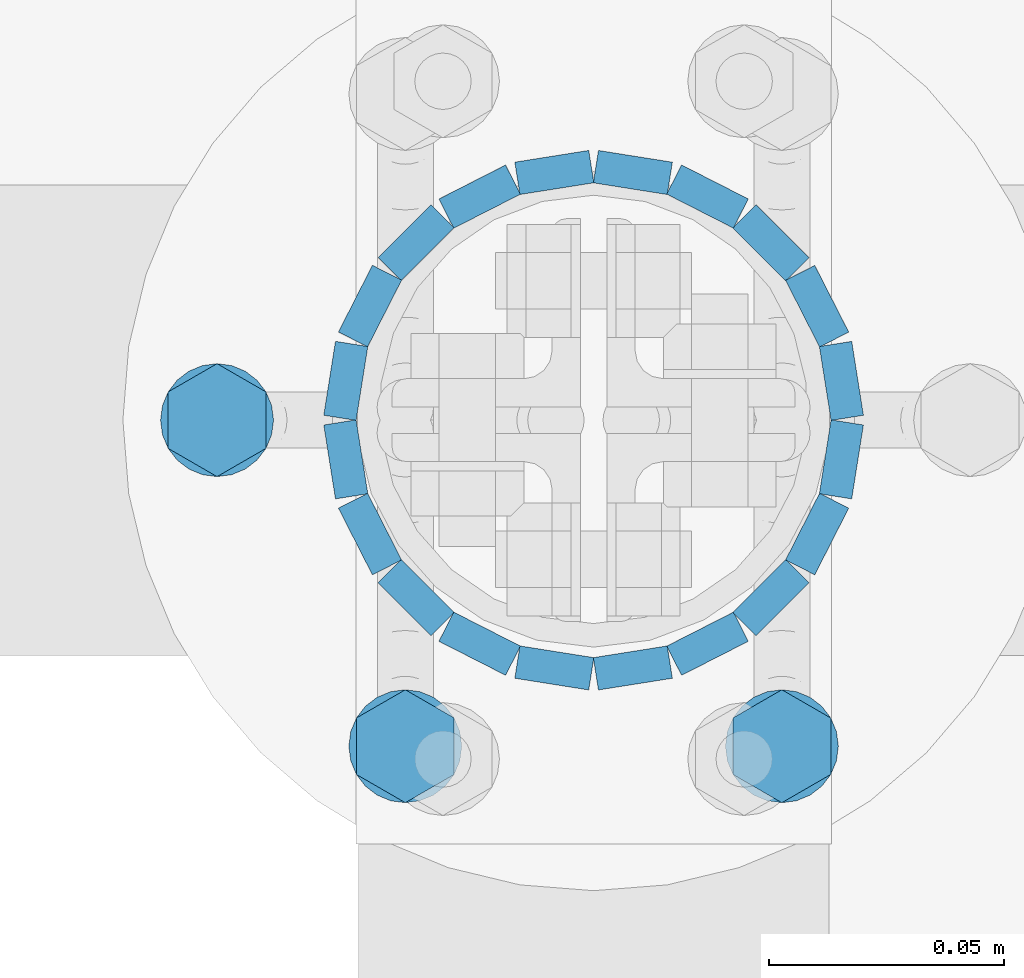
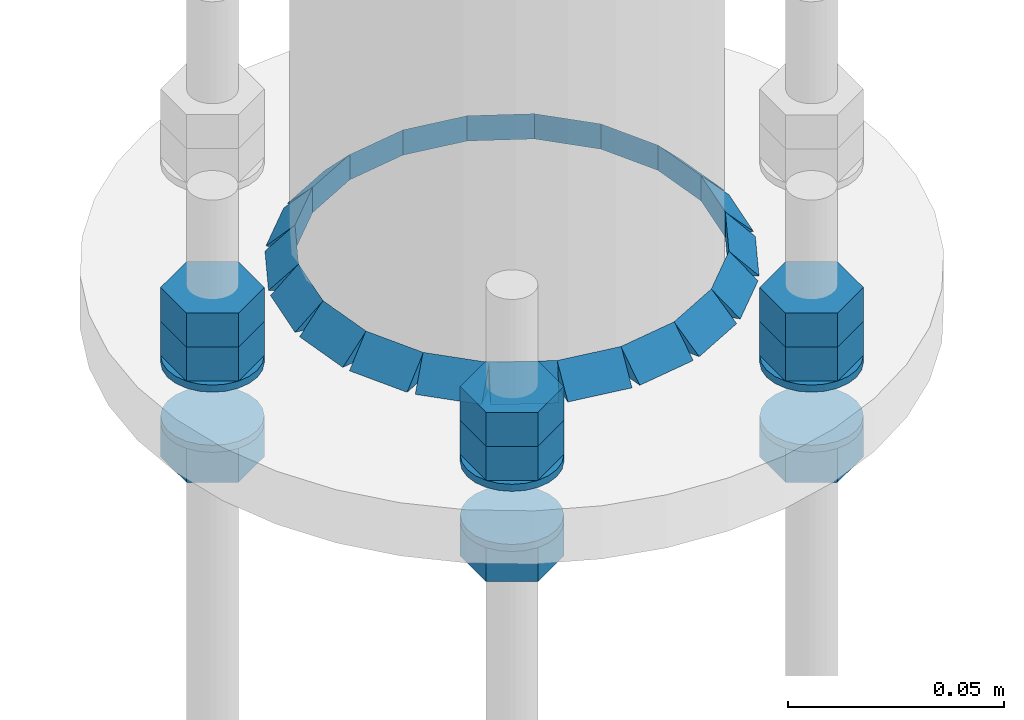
# One storey, part 58 of 84: 40 fasteners, 15 mechanical fasteners.
"""IFC4 building model written with IfcOpenShell, lengths in metres."""

from ifc_helpers import new_model, si_unit, frame, origin_with_axes, place, context, project, spatial, polyline, outline, extrude, type_object, element, save


model = new_model("IFC4")

# Units and contexts
model_context = context("Model", 3, precision=1e-05, world=origin_with_axes())
ifc_project = project(units=[si_unit("LENGTHUNIT", "METRE"), si_unit("AREAUNIT", "SQUARE_METRE"), si_unit("VOLUMEUNIT", "CUBIC_METRE"), si_unit("MASSUNIT", "GRAM", prefix="KILO"), si_unit("TIMEUNIT", "SECOND"), si_unit("PLANEANGLEUNIT", "RADIAN"), si_unit("SOLIDANGLEUNIT", "STERADIAN"), si_unit("THERMODYNAMICTEMPERATUREUNIT", "DEGREE_CELSIUS")], contexts=[model_context])

# Site, building, storey
placement_1 = place(None, origin_with_axes())
site = spatial("IfcSite", under=ifc_project, at=placement_1, Name="Italia", CompositionType="ELEMENT")
building = spatial("IfcBuilding", under=site, at=placement_1, Name="Tettoia", CompositionType="ELEMENT")
storey_placement = place(None, frame((0.0, 0.0, 4.199999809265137), z_axis=(0.0, 0.0, 1.0), x_axis=(1.0, 0.0, 0.0)))
storey = spatial("IfcBuildingStorey", under=building, at=storey_placement, Name="Storey 1", CompositionType="ELEMENT", Elevation=4.199999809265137)

# Fasteners
fastener_type_1 = type_object("IfcFastenerType", Name="Collegamento -009_0109", PredefinedType="WELD")
placement_2 = place(placement_1, origin_with_axes())
fastener_1_placement = place(placement_2, origin_with_axes())
element("IfcFastener", 1, at=fastener_1_placement, inside=storey, type_object=fastener_type_1, Name="Collegamento -009_0109", context=model_context, shape_type="SweptSolid", body=[
    extrude(outline(polyline([(0.0, 0.0), (0.00695705, 0.00717354), (0.00695705, 0.0), (0.0, 0.0)])), frame((8.30674, 10.0248, 4.01495), z_axis=(-0.987678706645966, 0.156495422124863, 0.0), x_axis=(-0.156495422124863, -0.987678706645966, 0.0)), (0.0, 0.0, 1.0), 0.0158991),
])
fastener_type_2 = type_object("IfcFastenerType", Name="Collegamento -009_0109", PredefinedType="WELD")
fastener_2_placement = place(placement_2, origin_with_axes())
element("IfcFastener", 2, at=fastener_2_placement, inside=storey, type_object=fastener_type_2, Name="Collegamento -009_0109", context=model_context, shape_type="SweptSolid", body=[
    extrude(outline(polyline([(0.0, 0.0), (0.00695992, 0.00717354), (0.00695992, 0.0), (0.0, 0.0)])), frame((8.32286, 10.017, 4.01495), z_axis=(-0.891030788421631, 0.453942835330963, 0.0), x_axis=(-0.453942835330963, -0.891030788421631, 0.0)), (0.0, 0.0, 1.0), 0.0158994),
])
fastener_type_3 = type_object("IfcFastenerType", Name="Collegamento -009_0109", PredefinedType="WELD")
fastener_3_placement = place(placement_2, origin_with_axes())
element("IfcFastener", 3, at=fastener_3_placement, inside=storey, type_object=fastener_type_3, Name="Collegamento -009_0109", context=model_context, shape_type="SweptSolid", body=[
    extrude(outline(polyline([(0.0, 0.0), (0.00695801, 0.00717354), (0.00695801, 0.0), (0.0, 0.0)])), frame((8.33578, 10.0045, 4.01495), z_axis=(-0.70710676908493, 0.70710676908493, 0.0), x_axis=(-0.70710676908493, -0.70710676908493, 0.0)), (0.0, 0.0, 1.0), 0.0158998),
])
fastener_type_4 = type_object("IfcFastenerType", Name="Collegamento -009_0109", PredefinedType="WELD")
fastener_4_placement = place(placement_2, origin_with_axes())
element("IfcFastener", 4, at=fastener_4_placement, inside=storey, type_object=fastener_type_4, Name="Collegamento -009_0109", context=model_context, shape_type="SweptSolid", body=[
    extrude(outline(polyline([(0.0, 0.0), (0.00695896, 0.00717354), (0.00695896, 0.0), (0.0, 0.0)])), frame((8.34421, 9.9887, 4.01495), z_axis=(-0.453942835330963, 0.891030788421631, 0.0), x_axis=(-0.891030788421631, -0.453942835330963, 0.0)), (0.0, 0.0, 1.0), 0.0158994),
])
fastener_type_5 = type_object("IfcFastenerType", Name="Collegamento -009_0109", PredefinedType="WELD")
fastener_5_placement = place(placement_2, origin_with_axes())
element("IfcFastener", 5, at=fastener_5_placement, inside=storey, type_object=fastener_type_5, Name="Collegamento -009_0109", context=model_context, shape_type="SweptSolid", body=[
    extrude(outline(polyline([(0.0, 0.0), (0.00695896, 0.00717354), (0.00695896, 0.0), (0.0, 0.0)])), frame((8.34733, 9.97103, 4.01495), z_axis=(-0.156495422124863, 0.987678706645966, 0.0), x_axis=(-0.987678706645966, -0.156495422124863, 0.0)), (0.0, 0.0, 1.0), 0.0158991),
])
fastener_type_6 = type_object("IfcFastenerType", Name="Collegamento -009_0109", PredefinedType="WELD")
fastener_6_placement = place(placement_2, origin_with_axes())
element("IfcFastener", 6, at=fastener_6_placement, inside=storey, type_object=fastener_type_6, Name="Collegamento -009_0109", context=model_context, shape_type="SweptSolid", body=[
    extrude(outline(polyline([(0.0, 0.0), (0.00695753, 0.00717354), (0.00695753, 0.0), (0.0, 0.0)])), frame((8.34484, 9.95327, 4.01495), z_axis=(0.156495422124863, 0.987678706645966, 0.0), x_axis=(-0.987678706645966, 0.156495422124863, 0.0)), (0.0, 0.0, 1.0), 0.0158991),
])
fastener_type_7 = type_object("IfcFastenerType", Name="Collegamento -009_0109", PredefinedType="WELD")
fastener_7_placement = place(placement_2, origin_with_axes())
element("IfcFastener", 7, at=fastener_7_placement, inside=storey, type_object=fastener_type_7, Name="Collegamento -009_0109", context=model_context, shape_type="SweptSolid", body=[
    extrude(outline(polyline([(0.0, 0.0), (0.00695896, 0.00717354), (0.00695896, 0.0), (0.0, 0.0)])), frame((8.33699, 9.93714, 4.01495), z_axis=(0.453942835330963, 0.891030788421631, 0.0), x_axis=(-0.891030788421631, 0.453942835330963, 0.0)), (0.0, 0.0, 1.0), 0.0158994),
])
fastener_type_8 = type_object("IfcFastenerType", Name="Collegamento -009_0109", PredefinedType="WELD")
fastener_8_placement = place(placement_2, origin_with_axes())
element("IfcFastener", 8, at=fastener_8_placement, inside=storey, type_object=fastener_type_8, Name="Collegamento -009_0109", context=model_context, shape_type="SweptSolid", body=[
    extrude(outline(polyline([(0.0, 0.0), (0.00695801, 0.00717354), (0.00695801, 0.0), (0.0, 0.0)])), frame((8.32453, 9.92422, 4.01495), z_axis=(0.70710676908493, 0.70710676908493, 0.0), x_axis=(-0.70710676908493, 0.70710676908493, 0.0)), (0.0, 0.0, 1.0), 0.0158998),
])
fastener_type_9 = type_object("IfcFastenerType", Name="Collegamento -009_0109", PredefinedType="WELD")
fastener_9_placement = place(placement_2, origin_with_axes())
element("IfcFastener", 9, at=fastener_9_placement, inside=storey, type_object=fastener_type_9, Name="Collegamento -009_0109", context=model_context, shape_type="SweptSolid", body=[
    extrude(outline(polyline([(0.0, 0.0), (0.00695801, 0.00717354), (0.00695801, 0.0), (0.0, 0.0)])), frame((8.3087, 9.91579, 4.01495), z_axis=(0.891030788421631, 0.453942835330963, 0.0), x_axis=(-0.453942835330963, 0.891030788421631, 0.0)), (0.0, 0.0, 1.0), 0.0158994),
])
fastener_type_10 = type_object("IfcFastenerType", Name="Collegamento -009_0109", PredefinedType="WELD")
fastener_10_placement = place(placement_2, origin_with_axes())
element("IfcFastener", 10, at=fastener_10_placement, inside=storey, type_object=fastener_type_10, Name="Collegamento -009_0109", context=model_context, shape_type="SweptSolid", body=[
    extrude(outline(polyline([(0.0, 0.0), (0.00695801, 0.00717354), (0.00695801, 0.0), (0.0, 0.0)])), frame((8.29103, 9.91267, 4.01495), z_axis=(0.987678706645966, 0.156495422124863, 0.0), x_axis=(-0.156495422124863, 0.987678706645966, 0.0)), (0.0, 0.0, 1.0), 0.0158991),
])
fastener_type_11 = type_object("IfcFastenerType", Name="Collegamento -009_0109", PredefinedType="WELD")
fastener_11_placement = place(placement_2, origin_with_axes())
element("IfcFastener", 11, at=fastener_11_placement, inside=storey, type_object=fastener_type_11, Name="Collegamento -009_0109", context=model_context, shape_type="SweptSolid", body=[
    extrude(outline(polyline([(0.0, 0.0), (0.00695705, 0.00717354), (0.00695705, 0.0), (0.0, 0.0)])), frame((8.27326, 9.91516, 4.01495), z_axis=(0.987678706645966, -0.156495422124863, 0.0), x_axis=(0.156495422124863, 0.987678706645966, 0.0)), (0.0, 0.0, 1.0), 0.0158991),
])
fastener_type_12 = type_object("IfcFastenerType", Name="Collegamento -009_0109", PredefinedType="WELD")
fastener_12_placement = place(placement_2, origin_with_axes())
element("IfcFastener", 12, at=fastener_12_placement, inside=storey, type_object=fastener_type_12, Name="Collegamento -009_0109", context=model_context, shape_type="SweptSolid", body=[
    extrude(outline(polyline([(0.0, 0.0), (0.00695801, 0.00717354), (0.00695801, 0.0), (0.0, 0.0)])), frame((8.25714, 9.92301, 4.01495), z_axis=(0.891030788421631, -0.453942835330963, 0.0), x_axis=(0.453942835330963, 0.891030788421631, 0.0)), (0.0, 0.0, 1.0), 0.0158994),
])
fastener_type_13 = type_object("IfcFastenerType", Name="Collegamento -009_0109", PredefinedType="WELD")
fastener_13_placement = place(placement_2, origin_with_axes())
element("IfcFastener", 13, at=fastener_13_placement, inside=storey, type_object=fastener_type_13, Name="Collegamento -009_0109", context=model_context, shape_type="SweptSolid", body=[
    extrude(outline(polyline([(0.0, 0.0), (0.00695801, 0.00717354), (0.00695801, 0.0), (0.0, 0.0)])), frame((8.24422, 9.93547, 4.01495), z_axis=(0.70710676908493, -0.70710676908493, 0.0), x_axis=(0.70710676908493, 0.70710676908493, 0.0)), (0.0, 0.0, 1.0), 0.0158998),
])
fastener_type_14 = type_object("IfcFastenerType", Name="Collegamento -009_0109", PredefinedType="WELD")
fastener_14_placement = place(placement_2, origin_with_axes())
element("IfcFastener", 14, at=fastener_14_placement, inside=storey, type_object=fastener_type_14, Name="Collegamento -009_0109", context=model_context, shape_type="SweptSolid", body=[
    extrude(outline(polyline([(0.0, 0.0), (0.00695801, 0.00717354), (0.00695801, 0.0), (0.0, 0.0)])), frame((8.23579, 9.9513, 4.01495), z_axis=(0.453942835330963, -0.891030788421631, 0.0), x_axis=(0.891030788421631, 0.453942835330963, 0.0)), (0.0, 0.0, 1.0), 0.0158994),
])
fastener_type_15 = type_object("IfcFastenerType", Name="Collegamento -009_0109", PredefinedType="WELD")
fastener_15_placement = place(placement_2, origin_with_axes())
element("IfcFastener", 15, at=fastener_15_placement, inside=storey, type_object=fastener_type_15, Name="Collegamento -009_0109", context=model_context, shape_type="SweptSolid", body=[
    extrude(outline(polyline([(0.0, 0.0), (0.00695992, 0.00717354), (0.00695992, 0.0), (0.0, 0.0)])), frame((8.23267, 9.96897, 4.01495), z_axis=(0.156495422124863, -0.987678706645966, 0.0), x_axis=(0.987678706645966, 0.156495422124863, 0.0)), (0.0, 0.0, 1.0), 0.0158991),
])
fastener_type_16 = type_object("IfcFastenerType", Name="Collegamento -009_0109", PredefinedType="WELD")
fastener_16_placement = place(placement_2, origin_with_axes())
element("IfcFastener", 16, at=fastener_16_placement, inside=storey, type_object=fastener_type_16, Name="Collegamento -009_0109", context=model_context, shape_type="SweptSolid", body=[
    extrude(outline(polyline([(0.0, 0.0), (0.00695896, 0.00717354), (0.00695896, 0.0), (0.0, 0.0)])), frame((8.23516, 9.98674, 4.01495), z_axis=(-0.156495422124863, -0.987678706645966, 0.0), x_axis=(0.987678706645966, -0.156495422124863, 0.0)), (0.0, 0.0, 1.0), 0.0158991),
])
fastener_type_17 = type_object("IfcFastenerType", Name="Collegamento -009_0109", PredefinedType="WELD")
fastener_17_placement = place(placement_2, origin_with_axes())
element("IfcFastener", 17, at=fastener_17_placement, inside=storey, type_object=fastener_type_17, Name="Collegamento -009_0109", context=model_context, shape_type="SweptSolid", body=[
    extrude(outline(polyline([(0.0, 0.0), (0.00695896, 0.00717354), (0.00695896, 0.0), (0.0, 0.0)])), frame((8.24301, 10.0029, 4.01495), z_axis=(-0.453942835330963, -0.891030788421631, 0.0), x_axis=(0.891030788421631, -0.453942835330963, 0.0)), (0.0, 0.0, 1.0), 0.0158994),
])
fastener_type_18 = type_object("IfcFastenerType", Name="Collegamento -009_0109", PredefinedType="WELD")
fastener_18_placement = place(placement_2, origin_with_axes())
element("IfcFastener", 18, at=fastener_18_placement, inside=storey, type_object=fastener_type_18, Name="Collegamento -009_0109", context=model_context, shape_type="SweptSolid", body=[
    extrude(outline(polyline([(0.0, 0.0), (0.00695801, 0.00717354), (0.00695801, 0.0), (0.0, 0.0)])), frame((8.25547, 10.0158, 4.01495), z_axis=(-0.70710676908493, -0.70710676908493, 0.0), x_axis=(0.70710676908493, -0.70710676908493, 0.0)), (0.0, 0.0, 1.0), 0.0158998),
])
fastener_type_19 = type_object("IfcFastenerType", Name="Collegamento -009_0109", PredefinedType="WELD")
fastener_19_placement = place(placement_2, origin_with_axes())
element("IfcFastener", 19, at=fastener_19_placement, inside=storey, type_object=fastener_type_19, Name="Collegamento -009_0109", context=model_context, shape_type="SweptSolid", body=[
    extrude(outline(polyline([(0.0, 0.0), (0.00695801, 0.00717354), (0.00695801, 0.0), (0.0, 0.0)])), frame((8.2713, 10.0242, 4.01495), z_axis=(-0.891030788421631, -0.453942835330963, 0.0), x_axis=(0.453942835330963, -0.891030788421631, 0.0)), (0.0, 0.0, 1.0), 0.0158994),
])
fastener_type_20 = type_object("IfcFastenerType", Name="Collegamento -009_0109", PredefinedType="WELD")
fastener_20_placement = place(placement_2, origin_with_axes())
element("IfcFastener", 20, at=fastener_20_placement, inside=storey, type_object=fastener_type_20, Name="Collegamento -009_0109", context=model_context, shape_type="SweptSolid", body=[
    extrude(outline(polyline([(0.0, 0.0), (0.00695801, 0.00717354), (0.00695801, 0.0), (0.0, 0.0)])), frame((8.28897, 10.0273, 4.01495), z_axis=(-0.987678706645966, -0.156495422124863, 0.0), x_axis=(0.156495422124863, -0.987678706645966, 0.0)), (0.0, 0.0, 1.0), 0.0158991),
])
fastener_type_21 = type_object("IfcFastenerType", Name="Collegamento -009_0109", PredefinedType="WELD")
fastener_21_placement = place(placement_2, origin_with_axes())
element("IfcFastener", 21, at=fastener_21_placement, inside=storey, type_object=fastener_type_21, Name="Collegamento -009_0109", context=model_context, shape_type="SweptSolid", body=[
    extrude(outline(polyline([(0.0, 0.0), (0.00695705, 0.00717354), (0.00695705, 0.0), (0.0, 0.0)])), frame((8.30674, 10.0248, 4.01495), z_axis=(-0.987678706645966, 0.156495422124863, 0.0), x_axis=(-0.156495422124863, -0.987678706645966, 0.0)), (0.0, 0.0, 1.0), 0.0158991),
])
fastener_type_22 = type_object("IfcFastenerType", Name="Collegamento -009_0109", PredefinedType="WELD")
fastener_22_placement = place(placement_2, origin_with_axes())
element("IfcFastener", 22, at=fastener_22_placement, inside=storey, type_object=fastener_type_22, Name="Collegamento -009_0109", context=model_context, shape_type="SweptSolid", body=[
    extrude(outline(polyline([(0.0, 0.0), (0.00695992, 0.00717354), (0.00695992, 0.0), (0.0, 0.0)])), frame((8.32286, 10.017, 4.01495), z_axis=(-0.891030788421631, 0.453942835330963, 0.0), x_axis=(-0.453942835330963, -0.891030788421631, 0.0)), (0.0, 0.0, 1.0), 0.0158994),
])
fastener_type_23 = type_object("IfcFastenerType", Name="Collegamento -009_0109", PredefinedType="WELD")
fastener_23_placement = place(placement_2, origin_with_axes())
element("IfcFastener", 23, at=fastener_23_placement, inside=storey, type_object=fastener_type_23, Name="Collegamento -009_0109", context=model_context, shape_type="SweptSolid", body=[
    extrude(outline(polyline([(0.0, 0.0), (0.00695801, 0.00717354), (0.00695801, 0.0), (0.0, 0.0)])), frame((8.33578, 10.0045, 4.01495), z_axis=(-0.70710676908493, 0.70710676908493, 0.0), x_axis=(-0.70710676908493, -0.70710676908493, 0.0)), (0.0, 0.0, 1.0), 0.0158998),
])
fastener_type_24 = type_object("IfcFastenerType", Name="Collegamento -009_0109", PredefinedType="WELD")
fastener_24_placement = place(placement_2, origin_with_axes())
element("IfcFastener", 24, at=fastener_24_placement, inside=storey, type_object=fastener_type_24, Name="Collegamento -009_0109", context=model_context, shape_type="SweptSolid", body=[
    extrude(outline(polyline([(0.0, 0.0), (0.00695896, 0.00717354), (0.00695896, 0.0), (0.0, 0.0)])), frame((8.34421, 9.9887, 4.01495), z_axis=(-0.453942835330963, 0.891030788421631, 0.0), x_axis=(-0.891030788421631, -0.453942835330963, 0.0)), (0.0, 0.0, 1.0), 0.0158994),
])
fastener_type_25 = type_object("IfcFastenerType", Name="Collegamento -009_0109", PredefinedType="WELD")
fastener_25_placement = place(placement_2, origin_with_axes())
element("IfcFastener", 25, at=fastener_25_placement, inside=storey, type_object=fastener_type_25, Name="Collegamento -009_0109", context=model_context, shape_type="SweptSolid", body=[
    extrude(outline(polyline([(0.0, 0.0), (0.00695896, 0.00717354), (0.00695896, 0.0), (0.0, 0.0)])), frame((8.34733, 9.97103, 4.01495), z_axis=(-0.156495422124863, 0.987678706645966, 0.0), x_axis=(-0.987678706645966, -0.156495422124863, 0.0)), (0.0, 0.0, 1.0), 0.0158991),
])
fastener_type_26 = type_object("IfcFastenerType", Name="Collegamento -009_0109", PredefinedType="WELD")
fastener_26_placement = place(placement_2, origin_with_axes())
element("IfcFastener", 26, at=fastener_26_placement, inside=storey, type_object=fastener_type_26, Name="Collegamento -009_0109", context=model_context, shape_type="SweptSolid", body=[
    extrude(outline(polyline([(0.0, 0.0), (0.00695753, 0.00717354), (0.00695753, 0.0), (0.0, 0.0)])), frame((8.34484, 9.95327, 4.01495), z_axis=(0.156495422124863, 0.987678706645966, 0.0), x_axis=(-0.987678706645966, 0.156495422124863, 0.0)), (0.0, 0.0, 1.0), 0.0158991),
])
fastener_type_27 = type_object("IfcFastenerType", Name="Collegamento -009_0109", PredefinedType="WELD")
fastener_27_placement = place(placement_2, origin_with_axes())
element("IfcFastener", 27, at=fastener_27_placement, inside=storey, type_object=fastener_type_27, Name="Collegamento -009_0109", context=model_context, shape_type="SweptSolid", body=[
    extrude(outline(polyline([(0.0, 0.0), (0.00695896, 0.00717354), (0.00695896, 0.0), (0.0, 0.0)])), frame((8.33699, 9.93714, 4.01495), z_axis=(0.453942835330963, 0.891030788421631, 0.0), x_axis=(-0.891030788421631, 0.453942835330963, 0.0)), (0.0, 0.0, 1.0), 0.0158994),
])
fastener_type_28 = type_object("IfcFastenerType", Name="Collegamento -009_0109", PredefinedType="WELD")
fastener_28_placement = place(placement_2, origin_with_axes())
element("IfcFastener", 28, at=fastener_28_placement, inside=storey, type_object=fastener_type_28, Name="Collegamento -009_0109", context=model_context, shape_type="SweptSolid", body=[
    extrude(outline(polyline([(0.0, 0.0), (0.00695801, 0.00717354), (0.00695801, 0.0), (0.0, 0.0)])), frame((8.32453, 9.92422, 4.01495), z_axis=(0.70710676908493, 0.70710676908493, 0.0), x_axis=(-0.70710676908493, 0.70710676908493, 0.0)), (0.0, 0.0, 1.0), 0.0158998),
])
fastener_type_29 = type_object("IfcFastenerType", Name="Collegamento -009_0109", PredefinedType="WELD")
fastener_29_placement = place(placement_2, origin_with_axes())
element("IfcFastener", 29, at=fastener_29_placement, inside=storey, type_object=fastener_type_29, Name="Collegamento -009_0109", context=model_context, shape_type="SweptSolid", body=[
    extrude(outline(polyline([(0.0, 0.0), (0.00695801, 0.00717354), (0.00695801, 0.0), (0.0, 0.0)])), frame((8.3087, 9.91579, 4.01495), z_axis=(0.891030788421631, 0.453942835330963, 0.0), x_axis=(-0.453942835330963, 0.891030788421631, 0.0)), (0.0, 0.0, 1.0), 0.0158994),
])
fastener_type_30 = type_object("IfcFastenerType", Name="Collegamento -009_0109", PredefinedType="WELD")
fastener_30_placement = place(placement_2, origin_with_axes())
element("IfcFastener", 30, at=fastener_30_placement, inside=storey, type_object=fastener_type_30, Name="Collegamento -009_0109", context=model_context, shape_type="SweptSolid", body=[
    extrude(outline(polyline([(0.0, 0.0), (0.00695801, 0.00717354), (0.00695801, 0.0), (0.0, 0.0)])), frame((8.29103, 9.91267, 4.01495), z_axis=(0.987678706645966, 0.156495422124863, 0.0), x_axis=(-0.156495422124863, 0.987678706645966, 0.0)), (0.0, 0.0, 1.0), 0.0158991),
])
fastener_type_31 = type_object("IfcFastenerType", Name="Collegamento -009_0109", PredefinedType="WELD")
fastener_31_placement = place(placement_2, origin_with_axes())
element("IfcFastener", 31, at=fastener_31_placement, inside=storey, type_object=fastener_type_31, Name="Collegamento -009_0109", context=model_context, shape_type="SweptSolid", body=[
    extrude(outline(polyline([(0.0, 0.0), (0.00695705, 0.00717354), (0.00695705, 0.0), (0.0, 0.0)])), frame((8.27326, 9.91516, 4.01495), z_axis=(0.987678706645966, -0.156495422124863, 0.0), x_axis=(0.156495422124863, 0.987678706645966, 0.0)), (0.0, 0.0, 1.0), 0.0158991),
])
fastener_type_32 = type_object("IfcFastenerType", Name="Collegamento -009_0109", PredefinedType="WELD")
fastener_32_placement = place(placement_2, origin_with_axes())
element("IfcFastener", 32, at=fastener_32_placement, inside=storey, type_object=fastener_type_32, Name="Collegamento -009_0109", context=model_context, shape_type="SweptSolid", body=[
    extrude(outline(polyline([(0.0, 0.0), (0.00695801, 0.00717354), (0.00695801, 0.0), (0.0, 0.0)])), frame((8.25714, 9.92301, 4.01495), z_axis=(0.891030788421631, -0.453942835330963, 0.0), x_axis=(0.453942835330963, 0.891030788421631, 0.0)), (0.0, 0.0, 1.0), 0.0158994),
])
fastener_type_33 = type_object("IfcFastenerType", Name="Collegamento -009_0109", PredefinedType="WELD")
fastener_33_placement = place(placement_2, origin_with_axes())
element("IfcFastener", 33, at=fastener_33_placement, inside=storey, type_object=fastener_type_33, Name="Collegamento -009_0109", context=model_context, shape_type="SweptSolid", body=[
    extrude(outline(polyline([(0.0, 0.0), (0.00695801, 0.00717354), (0.00695801, 0.0), (0.0, 0.0)])), frame((8.24422, 9.93547, 4.01495), z_axis=(0.70710676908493, -0.70710676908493, 0.0), x_axis=(0.70710676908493, 0.70710676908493, 0.0)), (0.0, 0.0, 1.0), 0.0158998),
])
fastener_type_34 = type_object("IfcFastenerType", Name="Collegamento -009_0109", PredefinedType="WELD")
fastener_34_placement = place(placement_2, origin_with_axes())
element("IfcFastener", 34, at=fastener_34_placement, inside=storey, type_object=fastener_type_34, Name="Collegamento -009_0109", context=model_context, shape_type="SweptSolid", body=[
    extrude(outline(polyline([(0.0, 0.0), (0.00695801, 0.00717354), (0.00695801, 0.0), (0.0, 0.0)])), frame((8.23579, 9.9513, 4.01495), z_axis=(0.453942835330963, -0.891030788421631, 0.0), x_axis=(0.891030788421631, 0.453942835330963, 0.0)), (0.0, 0.0, 1.0), 0.0158994),
])
fastener_type_35 = type_object("IfcFastenerType", Name="Collegamento -009_0109", PredefinedType="WELD")
fastener_35_placement = place(placement_2, origin_with_axes())
element("IfcFastener", 35, at=fastener_35_placement, inside=storey, type_object=fastener_type_35, Name="Collegamento -009_0109", context=model_context, shape_type="SweptSolid", body=[
    extrude(outline(polyline([(0.0, 0.0), (0.00695992, 0.00717354), (0.00695992, 0.0), (0.0, 0.0)])), frame((8.23267, 9.96897, 4.01495), z_axis=(0.156495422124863, -0.987678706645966, 0.0), x_axis=(0.987678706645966, 0.156495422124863, 0.0)), (0.0, 0.0, 1.0), 0.0158991),
])
fastener_type_36 = type_object("IfcFastenerType", Name="Collegamento -009_0109", PredefinedType="WELD")
fastener_36_placement = place(placement_2, origin_with_axes())
element("IfcFastener", 36, at=fastener_36_placement, inside=storey, type_object=fastener_type_36, Name="Collegamento -009_0109", context=model_context, shape_type="SweptSolid", body=[
    extrude(outline(polyline([(0.0, 0.0), (0.00695896, 0.00717354), (0.00695896, 0.0), (0.0, 0.0)])), frame((8.23516, 9.98674, 4.01495), z_axis=(-0.156495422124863, -0.987678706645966, 0.0), x_axis=(0.987678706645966, -0.156495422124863, 0.0)), (0.0, 0.0, 1.0), 0.0158991),
])
fastener_type_37 = type_object("IfcFastenerType", Name="Collegamento -009_0109", PredefinedType="WELD")
fastener_37_placement = place(placement_2, origin_with_axes())
element("IfcFastener", 37, at=fastener_37_placement, inside=storey, type_object=fastener_type_37, Name="Collegamento -009_0109", context=model_context, shape_type="SweptSolid", body=[
    extrude(outline(polyline([(0.0, 0.0), (0.00695896, 0.00717354), (0.00695896, 0.0), (0.0, 0.0)])), frame((8.24301, 10.0029, 4.01495), z_axis=(-0.453942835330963, -0.891030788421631, 0.0), x_axis=(0.891030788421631, -0.453942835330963, 0.0)), (0.0, 0.0, 1.0), 0.0158994),
])
fastener_type_38 = type_object("IfcFastenerType", Name="Collegamento -009_0109", PredefinedType="WELD")
fastener_38_placement = place(placement_2, origin_with_axes())
element("IfcFastener", 38, at=fastener_38_placement, inside=storey, type_object=fastener_type_38, Name="Collegamento -009_0109", context=model_context, shape_type="SweptSolid", body=[
    extrude(outline(polyline([(0.0, 0.0), (0.00695801, 0.00717354), (0.00695801, 0.0), (0.0, 0.0)])), frame((8.25547, 10.0158, 4.01495), z_axis=(-0.70710676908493, -0.70710676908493, 0.0), x_axis=(0.70710676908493, -0.70710676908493, 0.0)), (0.0, 0.0, 1.0), 0.0158998),
])
fastener_type_39 = type_object("IfcFastenerType", Name="Collegamento -009_0109", PredefinedType="WELD")
fastener_39_placement = place(placement_2, origin_with_axes())
element("IfcFastener", 39, at=fastener_39_placement, inside=storey, type_object=fastener_type_39, Name="Collegamento -009_0109", context=model_context, shape_type="SweptSolid", body=[
    extrude(outline(polyline([(0.0, 0.0), (0.00695801, 0.00717354), (0.00695801, 0.0), (0.0, 0.0)])), frame((8.2713, 10.0242, 4.01495), z_axis=(-0.891030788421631, -0.453942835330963, 0.0), x_axis=(0.453942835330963, -0.891030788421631, 0.0)), (0.0, 0.0, 1.0), 0.0158994),
])
fastener_type_40 = type_object("IfcFastenerType", Name="Collegamento -009_0109", PredefinedType="WELD")
fastener_40_placement = place(placement_2, origin_with_axes())
element("IfcFastener", 40, at=fastener_40_placement, inside=storey, type_object=fastener_type_40, Name="Collegamento -009_0109", context=model_context, shape_type="SweptSolid", body=[
    extrude(outline(polyline([(0.0, 0.0), (0.00695801, 0.00717354), (0.00695801, 0.0), (0.0, 0.0)])), frame((8.28897, 10.0273, 4.01495), z_axis=(-0.987678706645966, -0.156495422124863, 0.0), x_axis=(0.156495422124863, -0.987678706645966, 0.0)), (0.0, 0.0, 1.0), 0.0158991),
])

# Mechanical fasteners
mechanical_fastener_type_1 = type_object("IfcMechanicalFastenerType", Name="Collegamento -009_0109", PredefinedType="BOLT")
mechanical_fastener_1_placement = place(placement_2, origin_with_axes())
element("IfcMechanicalFastener", 41, at=mechanical_fastener_1_placement, inside=storey, type_object=mechanical_fastener_type_1, Name="Collegamento -009_0109", NominalDiameter=0.0119991, context=model_context, shape_type="SweptSolid", body=[
    extrude(outline(polyline([(0.0, 0.0), (-0.0119991, 0.0), (-0.0179996, 0.0103922), (-0.0119991, 0.0207844), (0.0, 0.0207844), (0.00600052, 0.0103922), (0.0, 0.0)])), frame((8.22039, 9.976, 4.017), z_axis=(0.0, 0.0, 1.0), x_axis=(0.0, 1.0, 0.0)), (0.0, 0.0, 1.0), 0.00959969),
])
mechanical_fastener_type_2 = type_object("IfcMechanicalFastenerType", Name="Collegamento -009_0109", PredefinedType="BOLT")
mechanical_fastener_2_placement = place(placement_2, origin_with_axes())
element("IfcMechanicalFastener", 42, at=mechanical_fastener_2_placement, inside=storey, type_object=mechanical_fastener_type_2, Name="Collegamento -009_0109", NominalDiameter=0.0119991, context=model_context, shape_type="SweptSolid", body=[
    extrude(outline(polyline([(0.0, 0.0), (-0.0119991, 0.0), (-0.0179996, 0.0103922), (-0.0119991, 0.0207844), (0.0, 0.0207844), (0.00600052, 0.0103922), (0.0, 0.0)])), frame((8.22039, 9.976, 4.0266), z_axis=(0.0, 0.0, 1.0), x_axis=(0.0, 1.0, 0.0)), (0.0, 0.0, 1.0), 0.00960016),
])
mechanical_fastener_type_3 = type_object("IfcMechanicalFastenerType", Name="Collegamento -009_0109", PredefinedType="BOLT")
mechanical_fastener_3_placement = place(placement_2, origin_with_axes())
element("IfcMechanicalFastener", 43, at=mechanical_fastener_3_placement, inside=storey, type_object=mechanical_fastener_type_3, Name="Collegamento -009_0109", NominalDiameter=0.0119991, context=model_context, shape_type="SweptSolid", body=[
    extrude(outline(polyline([(0.0, 0.0), (-0.0119991, 0.0), (-0.0179996, 0.0103922), (-0.0119991, 0.0207844), (0.0, 0.0207844), (0.00600052, 0.0103922), (0.0, 0.0)])), frame((8.22039, 9.976, 3.9884), z_axis=(0.0, 0.0, 1.0), x_axis=(0.0, 1.0, 0.0)), (0.0, 0.0, 1.0), 0.00959992),
])
mechanical_fastener_type_4 = type_object("IfcMechanicalFastenerType", Name="Collegamento -009_0109", PredefinedType="BOLT")
mechanical_fastener_4_placement = place(placement_2, origin_with_axes())
element("IfcMechanicalFastener", 44, at=mechanical_fastener_4_placement, inside=storey, type_object=mechanical_fastener_type_4, Name="Collegamento -009_0109", NominalDiameter=0.024, context=model_context, shape_type="SweptSolid", body=[
    extrude(outline(polyline([(0.0, 0.0), (-0.000409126, -0.00310612), (-0.00160789, -0.00599957), (-0.00351524, -0.00848484), (-0.00600052, -0.0103922), (-0.00889397, -0.011591), (-0.0120001, -0.0120001), (-0.0151062, -0.011591), (-0.0179996, -0.0103922), (-0.0204849, -0.00848484), (-0.0223923, -0.00599957), (-0.023591, -0.00310612), (-0.0240002, 0.0), (-0.023591, 0.00310612), (-0.0223923, 0.00599957), (-0.0204849, 0.00848484), (-0.0179996, 0.0103922), (-0.0151062, 0.011591), (-0.0120001, 0.0120001), (-0.00889397, 0.011591), (-0.00600052, 0.0103922), (-0.00351524, 0.00848484), (-0.00160789, 0.00599957), (-0.000409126, 0.00310612), (0.0, 0.0)])), frame((8.21, 9.982, 4.015), z_axis=(0.0, 0.0, 1.0), x_axis=(0.0, 1.0, 0.0)), (0.0, 0.0, 1.0), 0.00200033),
])
mechanical_fastener_type_5 = type_object("IfcMechanicalFastenerType", Name="Collegamento -009_0109", PredefinedType="BOLT")
mechanical_fastener_5_placement = place(placement_2, origin_with_axes())
element("IfcMechanicalFastener", 45, at=mechanical_fastener_5_placement, inside=storey, type_object=mechanical_fastener_type_5, Name="Collegamento -009_0109", NominalDiameter=0.024, context=model_context, shape_type="SweptSolid", body=[
    extrude(outline(polyline([(0.0, 0.0), (-0.000409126, -0.00310612), (-0.00160789, -0.00599957), (-0.00351524, -0.00848484), (-0.00600052, -0.0103922), (-0.00889397, -0.011591), (-0.0120001, -0.0120001), (-0.0151062, -0.011591), (-0.0179996, -0.0103922), (-0.0204849, -0.00848484), (-0.0223923, -0.00599957), (-0.023591, -0.00310612), (-0.0240002, 0.0), (-0.023591, 0.00310612), (-0.0223923, 0.00599957), (-0.0204849, 0.00848484), (-0.0179996, 0.0103922), (-0.0151062, 0.011591), (-0.0120001, 0.0120001), (-0.00889397, 0.011591), (-0.00600052, 0.0103922), (-0.00351524, 0.00848484), (-0.00160789, 0.00599957), (-0.000409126, 0.00310612), (0.0, 0.0)])), frame((8.21, 9.982, 3.998), z_axis=(0.0, 0.0, 1.0), x_axis=(0.0, 1.0, 0.0)), (0.0, 0.0, 1.0), 0.00200009),
])
mechanical_fastener_type_6 = type_object("IfcMechanicalFastenerType", Name="Collegamento -009_0109", PredefinedType="BOLT")
mechanical_fastener_6_placement = place(placement_2, origin_with_axes())
element("IfcMechanicalFastener", 46, at=mechanical_fastener_6_placement, inside=storey, type_object=mechanical_fastener_type_6, Name="Collegamento -009_0109", NominalDiameter=0.0119997, context=model_context, shape_type="SweptSolid", body=[
    extrude(outline(polyline([(0.0, 0.0), (-0.0120001, 0.0), (-0.0179996, 0.0103922), (-0.0120001, 0.0207844), (0.0, 0.0207844), (0.00599957, 0.0103922), (0.0, 0.0)])), frame((8.26039, 9.90672, 4.017), z_axis=(0.0, 0.0, 1.0), x_axis=(0.0, 1.0, 0.0)), (0.0, 0.0, 1.0), 0.00959969),
])
mechanical_fastener_type_7 = type_object("IfcMechanicalFastenerType", Name="Collegamento -009_0109", PredefinedType="BOLT")
mechanical_fastener_7_placement = place(placement_2, origin_with_axes())
element("IfcMechanicalFastener", 47, at=mechanical_fastener_7_placement, inside=storey, type_object=mechanical_fastener_type_7, Name="Collegamento -009_0109", NominalDiameter=0.0119997, context=model_context, shape_type="SweptSolid", body=[
    extrude(outline(polyline([(0.0, 0.0), (-0.0120001, 0.0), (-0.0179996, 0.0103922), (-0.0120001, 0.0207844), (0.0, 0.0207844), (0.00599957, 0.0103922), (0.0, 0.0)])), frame((8.26039, 9.90672, 4.0266), z_axis=(0.0, 0.0, 1.0), x_axis=(0.0, 1.0, 0.0)), (0.0, 0.0, 1.0), 0.00960016),
])
mechanical_fastener_type_8 = type_object("IfcMechanicalFastenerType", Name="Collegamento -009_0109", PredefinedType="BOLT")
mechanical_fastener_8_placement = place(placement_2, origin_with_axes())
element("IfcMechanicalFastener", 48, at=mechanical_fastener_8_placement, inside=storey, type_object=mechanical_fastener_type_8, Name="Collegamento -009_0109", NominalDiameter=0.0119997, context=model_context, shape_type="SweptSolid", body=[
    extrude(outline(polyline([(0.0, 0.0), (-0.0120001, 0.0), (-0.0179996, 0.0103922), (-0.0120001, 0.0207844), (0.0, 0.0207844), (0.00599957, 0.0103922), (0.0, 0.0)])), frame((8.26039, 9.90672, 3.9884), z_axis=(0.0, 0.0, 1.0), x_axis=(0.0, 1.0, 0.0)), (0.0, 0.0, 1.0), 0.00959992),
])
mechanical_fastener_type_9 = type_object("IfcMechanicalFastenerType", Name="Collegamento -009_0109", PredefinedType="BOLT")
mechanical_fastener_9_placement = place(placement_2, origin_with_axes())
element("IfcMechanicalFastener", 49, at=mechanical_fastener_9_placement, inside=storey, type_object=mechanical_fastener_type_9, Name="Collegamento -009_0109", NominalDiameter=0.024, context=model_context, shape_type="SweptSolid", body=[
    extrude(outline(polyline([(0.0, 0.0), (-0.000409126, -0.00310612), (-0.00160789, -0.00599957), (-0.00351524, -0.00848484), (-0.00600052, -0.0103922), (-0.00889397, -0.011591), (-0.0120001, -0.0120001), (-0.0151062, -0.011591), (-0.0179996, -0.0103922), (-0.0204849, -0.00848484), (-0.0223923, -0.00599957), (-0.023591, -0.00310612), (-0.0240002, 0.0), (-0.023591, 0.00310612), (-0.0223923, 0.00599957), (-0.0204849, 0.00848484), (-0.0179996, 0.0103922), (-0.0151062, 0.011591), (-0.0120001, 0.0120001), (-0.00889397, 0.011591), (-0.00600052, 0.0103922), (-0.00351524, 0.00848484), (-0.00160789, 0.00599957), (-0.000409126, 0.00310612), (0.0, 0.0)])), frame((8.25, 9.91272, 4.015), z_axis=(0.0, 0.0, 1.0), x_axis=(0.0, 1.0, 0.0)), (0.0, 0.0, 1.0), 0.00200033),
])
mechanical_fastener_type_10 = type_object("IfcMechanicalFastenerType", Name="Collegamento -009_0109", PredefinedType="BOLT")
mechanical_fastener_10_placement = place(placement_2, origin_with_axes())
element("IfcMechanicalFastener", 50, at=mechanical_fastener_10_placement, inside=storey, type_object=mechanical_fastener_type_10, Name="Collegamento -009_0109", NominalDiameter=0.024, context=model_context, shape_type="SweptSolid", body=[
    extrude(outline(polyline([(0.0, 0.0), (-0.000409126, -0.00310612), (-0.00160789, -0.00599957), (-0.00351524, -0.00848484), (-0.00600052, -0.0103922), (-0.00889397, -0.011591), (-0.0120001, -0.0120001), (-0.0151062, -0.011591), (-0.0179996, -0.0103922), (-0.0204849, -0.00848484), (-0.0223923, -0.00599957), (-0.023591, -0.00310612), (-0.0240002, 0.0), (-0.023591, 0.00310612), (-0.0223923, 0.00599957), (-0.0204849, 0.00848484), (-0.0179996, 0.0103922), (-0.0151062, 0.011591), (-0.0120001, 0.0120001), (-0.00889397, 0.011591), (-0.00600052, 0.0103922), (-0.00351524, 0.00848484), (-0.00160789, 0.00599957), (-0.000409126, 0.00310612), (0.0, 0.0)])), frame((8.25, 9.91272, 3.998), z_axis=(0.0, 0.0, 1.0), x_axis=(0.0, 1.0, 0.0)), (0.0, 0.0, 1.0), 0.00200009),
])
mechanical_fastener_type_11 = type_object("IfcMechanicalFastenerType", Name="Collegamento -009_0109", PredefinedType="BOLT")
mechanical_fastener_11_placement = place(placement_2, origin_with_axes())
element("IfcMechanicalFastener", 51, at=mechanical_fastener_11_placement, inside=storey, type_object=mechanical_fastener_type_11, Name="Collegamento -009_0109", NominalDiameter=0.0119997, context=model_context, shape_type="SweptSolid", body=[
    extrude(outline(polyline([(0.0, 0.0), (-0.0120001, 0.0), (-0.0179996, 0.0103922), (-0.0120001, 0.0207844), (0.0, 0.0207844), (0.00599957, 0.0103922), (0.0, 0.0)])), frame((8.34039, 9.90672, 4.017), z_axis=(0.0, 0.0, 1.0), x_axis=(0.0, 1.0, 0.0)), (0.0, 0.0, 1.0), 0.00959969),
])
mechanical_fastener_type_12 = type_object("IfcMechanicalFastenerType", Name="Collegamento -009_0109", PredefinedType="BOLT")
mechanical_fastener_12_placement = place(placement_2, origin_with_axes())
element("IfcMechanicalFastener", 52, at=mechanical_fastener_12_placement, inside=storey, type_object=mechanical_fastener_type_12, Name="Collegamento -009_0109", NominalDiameter=0.0119997, context=model_context, shape_type="SweptSolid", body=[
    extrude(outline(polyline([(0.0, 0.0), (-0.0120001, 0.0), (-0.0179996, 0.0103922), (-0.0120001, 0.0207844), (0.0, 0.0207844), (0.00599957, 0.0103922), (0.0, 0.0)])), frame((8.34039, 9.90672, 4.0266), z_axis=(0.0, 0.0, 1.0), x_axis=(0.0, 1.0, 0.0)), (0.0, 0.0, 1.0), 0.00960016),
])
mechanical_fastener_type_13 = type_object("IfcMechanicalFastenerType", Name="Collegamento -009_0109", PredefinedType="BOLT")
mechanical_fastener_13_placement = place(placement_2, origin_with_axes())
element("IfcMechanicalFastener", 53, at=mechanical_fastener_13_placement, inside=storey, type_object=mechanical_fastener_type_13, Name="Collegamento -009_0109", NominalDiameter=0.0119997, context=model_context, shape_type="SweptSolid", body=[
    extrude(outline(polyline([(0.0, 0.0), (-0.0120001, 0.0), (-0.0179996, 0.0103922), (-0.0120001, 0.0207844), (0.0, 0.0207844), (0.00599957, 0.0103922), (0.0, 0.0)])), frame((8.34039, 9.90672, 3.9884), z_axis=(0.0, 0.0, 1.0), x_axis=(0.0, 1.0, 0.0)), (0.0, 0.0, 1.0), 0.00959992),
])
mechanical_fastener_type_14 = type_object("IfcMechanicalFastenerType", Name="Collegamento -009_0109", PredefinedType="BOLT")
mechanical_fastener_14_placement = place(placement_2, origin_with_axes())
element("IfcMechanicalFastener", 54, at=mechanical_fastener_14_placement, inside=storey, type_object=mechanical_fastener_type_14, Name="Collegamento -009_0109", NominalDiameter=0.024, context=model_context, shape_type="SweptSolid", body=[
    extrude(outline(polyline([(0.0, 0.0), (-0.000409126, -0.00310612), (-0.00160789, -0.00599957), (-0.00351524, -0.00848484), (-0.00600052, -0.0103922), (-0.00889397, -0.011591), (-0.0120001, -0.0120001), (-0.0151062, -0.011591), (-0.0179996, -0.0103922), (-0.0204849, -0.00848484), (-0.0223923, -0.00599957), (-0.023591, -0.00310612), (-0.0240002, 0.0), (-0.023591, 0.00310612), (-0.0223923, 0.00599957), (-0.0204849, 0.00848484), (-0.0179996, 0.0103922), (-0.0151062, 0.011591), (-0.0120001, 0.0120001), (-0.00889397, 0.011591), (-0.00600052, 0.0103922), (-0.00351524, 0.00848484), (-0.00160789, 0.00599957), (-0.000409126, 0.00310612), (0.0, 0.0)])), frame((8.33, 9.91272, 4.015), z_axis=(0.0, 0.0, 1.0), x_axis=(0.0, 1.0, 0.0)), (0.0, 0.0, 1.0), 0.00200033),
])
mechanical_fastener_type_15 = type_object("IfcMechanicalFastenerType", Name="Collegamento -009_0109", PredefinedType="BOLT")
mechanical_fastener_15_placement = place(placement_2, origin_with_axes())
element("IfcMechanicalFastener", 55, at=mechanical_fastener_15_placement, inside=storey, type_object=mechanical_fastener_type_15, Name="Collegamento -009_0109", NominalDiameter=0.024, context=model_context, shape_type="SweptSolid", body=[
    extrude(outline(polyline([(0.0, 0.0), (-0.000409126, -0.00310612), (-0.00160789, -0.00599957), (-0.00351524, -0.00848484), (-0.00600052, -0.0103922), (-0.00889397, -0.011591), (-0.0120001, -0.0120001), (-0.0151062, -0.011591), (-0.0179996, -0.0103922), (-0.0204849, -0.00848484), (-0.0223923, -0.00599957), (-0.023591, -0.00310612), (-0.0240002, 0.0), (-0.023591, 0.00310612), (-0.0223923, 0.00599957), (-0.0204849, 0.00848484), (-0.0179996, 0.0103922), (-0.0151062, 0.011591), (-0.0120001, 0.0120001), (-0.00889397, 0.011591), (-0.00600052, 0.0103922), (-0.00351524, 0.00848484), (-0.00160789, 0.00599957), (-0.000409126, 0.00310612), (0.0, 0.0)])), frame((8.33, 9.91272, 3.998), z_axis=(0.0, 0.0, 1.0), x_axis=(0.0, 1.0, 0.0)), (0.0, 0.0, 1.0), 0.00200009),
])

save(model, "model.ifc")
